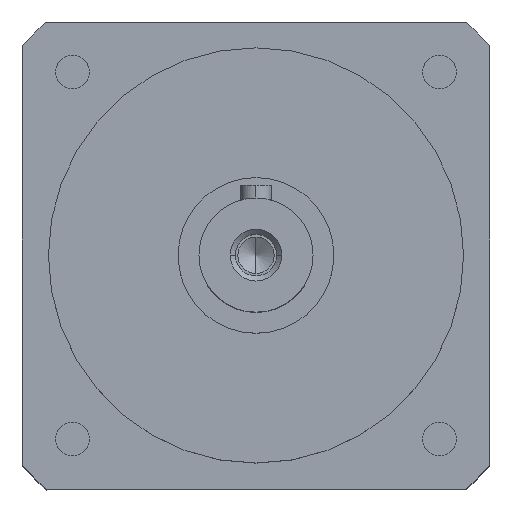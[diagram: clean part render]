
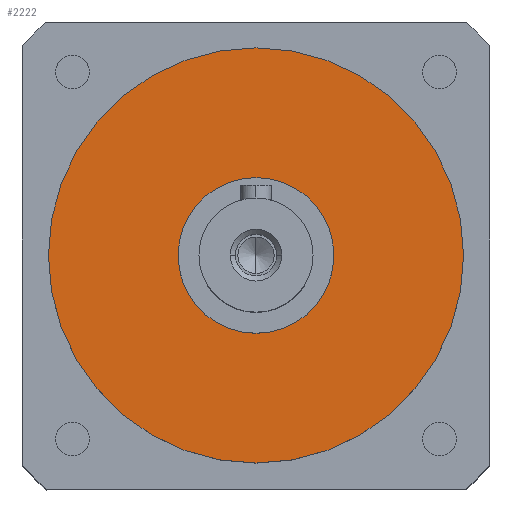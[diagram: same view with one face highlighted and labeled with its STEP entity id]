
A CAD part, top view. The second image highlights one B-rep face of the part: STEP entity #2222.
In plain terms, the highlighted planar face has unit normal (0, 0, 1).
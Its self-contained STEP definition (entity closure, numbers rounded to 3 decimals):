
#339 = AXIS2_PLACEMENT_3D ( 'NONE', #665, #1617, #2560 ) ;
#665 = CARTESIAN_POINT ( 'NONE',  ( 0., 0., 10. ) ) ;
#669 = CIRCLE ( 'NONE', #339, 15. ) ;
#718 = ORIENTED_EDGE ( 'NONE', *, *, #1973, .F. ) ;
#836 = EDGE_CURVE ( 'NONE', #3904, #2288, #669, .T. ) ;
#893 = ORIENTED_EDGE ( 'NONE', *, *, #836, .F. ) ;
#1001 = CARTESIAN_POINT ( 'NONE',  ( 0., -40., 10. ) ) ;
#1120 = AXIS2_PLACEMENT_3D ( 'NONE', #1709, #1725, #1740 ) ;
#1126 = FACE_OUTER_BOUND ( 'NONE', #4145, .T. ) ;
#1209 = VERTEX_POINT ( 'NONE', #2729 ) ;
#1263 = AXIS2_PLACEMENT_3D ( 'NONE', #3805, #3827, #3846 ) ;
#1374 = CARTESIAN_POINT ( 'NONE',  ( 0., 0., 10. ) ) ;
#1405 = DIRECTION ( 'NONE',  ( 0., 0., 1. ) ) ;
#1422 = DIRECTION ( 'NONE',  ( 0., 1., 0. ) ) ;
#1443 = CARTESIAN_POINT ( 'NONE',  ( -15., 0., 10. ) ) ;
#1550 = CARTESIAN_POINT ( 'NONE',  ( 0., 0., 10. ) ) ;
#1617 = DIRECTION ( 'NONE',  ( 0., 0., 1. ) ) ;
#1709 = CARTESIAN_POINT ( 'NONE',  ( 0., 0., 10. ) ) ;
#1725 = DIRECTION ( 'NONE',  ( 0., 0., 1. ) ) ;
#1740 = DIRECTION ( 'NONE',  ( -1., 0., 0. ) ) ;
#1791 = EDGE_LOOP ( 'NONE', ( #893, #718 ) ) ;
#1874 = DIRECTION ( 'NONE',  ( 0., 1., 0. ) ) ;
#1973 = EDGE_CURVE ( 'NONE', #2288, #3904, #2458, .T. ) ;
#2202 = ORIENTED_EDGE ( 'NONE', *, *, #4473, .T. ) ;
#2222 = ADVANCED_FACE ( 'NONE', ( #3731, #1126 ), #3801, .F. ) ;
#2288 = VERTEX_POINT ( 'NONE', #4400 ) ;
#2458 = CIRCLE ( 'NONE', #1120, 15. ) ;
#2541 = VERTEX_POINT ( 'NONE', #1001 ) ;
#2560 = DIRECTION ( 'NONE',  ( -1., 0., 0. ) ) ;
#2562 = EDGE_CURVE ( 'NONE', #2541, #1209, #4331, .T. ) ;
#2729 = CARTESIAN_POINT ( 'NONE',  ( 0., 40., 10. ) ) ;
#2932 = CIRCLE ( 'NONE', #3507, 40. ) ;
#3287 = AXIS2_PLACEMENT_3D ( 'NONE', #1374, #1405, #1422 ) ;
#3507 = AXIS2_PLACEMENT_3D ( 'NONE', #1550, #4077, #1874 ) ;
#3731 = FACE_BOUND ( 'NONE', #1791, .T. ) ;
#3801 = PLANE ( 'NONE',  #1263 ) ;
#3805 = CARTESIAN_POINT ( 'NONE',  ( 40.48, -40.48, 10. ) ) ;
#3827 = DIRECTION ( 'NONE',  ( 0., 0., -1. ) ) ;
#3830 = ORIENTED_EDGE ( 'NONE', *, *, #2562, .T. ) ;
#3846 = DIRECTION ( 'NONE',  ( -1., 0., 0. ) ) ;
#3904 = VERTEX_POINT ( 'NONE', #1443 ) ;
#4077 = DIRECTION ( 'NONE',  ( 0., 0., 1. ) ) ;
#4145 = EDGE_LOOP ( 'NONE', ( #2202, #3830 ) ) ;
#4331 = CIRCLE ( 'NONE', #3287, 40. ) ;
#4400 = CARTESIAN_POINT ( 'NONE',  ( 15., 0., 10. ) ) ;
#4473 = EDGE_CURVE ( 'NONE', #1209, #2541, #2932, .T. ) ;
